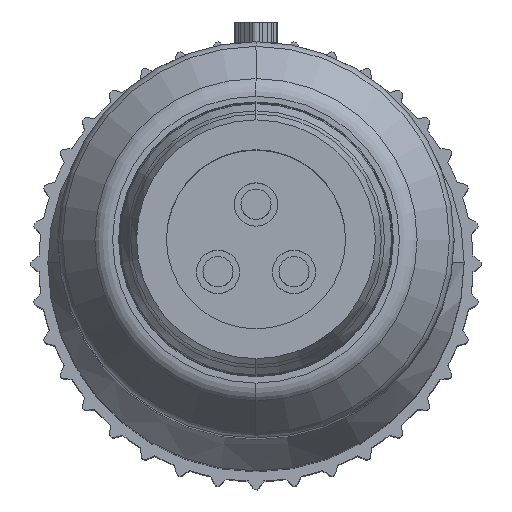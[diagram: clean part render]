
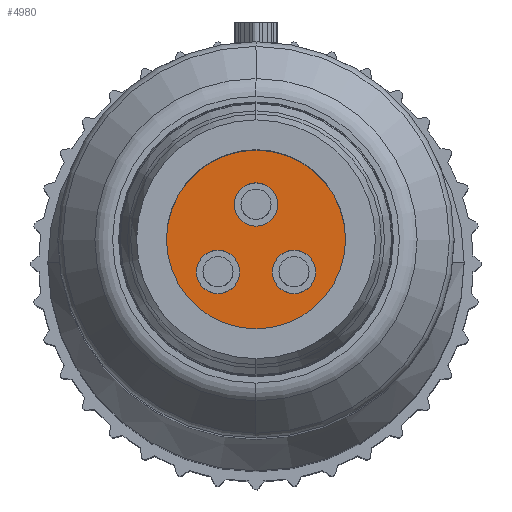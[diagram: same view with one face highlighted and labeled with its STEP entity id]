
A CAD part, top view. The second image highlights one B-rep face of the part: STEP entity #4980.
In plain terms, the highlighted planar face has unit normal (0, 0, 1).
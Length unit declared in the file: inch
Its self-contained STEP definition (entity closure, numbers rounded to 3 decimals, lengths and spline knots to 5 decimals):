
#1101=CARTESIAN_POINT('',(0.,0.,0.));
#1102=DIRECTION('',(0.,0.,1.));
#1103=DIRECTION('',(0.,-1.,0.));
#1104=AXIS2_PLACEMENT_3D('',#1101,#1102,#1103);
#1106=CARTESIAN_POINT('',(0.,0.,0.));
#1107=DIRECTION('',(0.,0.,1.));
#1108=DIRECTION('',(0.,1.,0.));
#1109=AXIS2_PLACEMENT_3D('',#1106,#1107,#1108);
#1111=CARTESIAN_POINT('',(0.,0.03236,0.));
#1112=DIRECTION('',(0.,0.,1.));
#1113=DIRECTION('',(1.,0.,0.));
#1114=AXIS2_PLACEMENT_3D('',#1111,#1112,#1113);
#1116=CARTESIAN_POINT('',(0.,0.03236,0.));
#1117=DIRECTION('',(0.,0.,1.));
#1118=DIRECTION('',(-1.,0.,0.));
#1119=AXIS2_PLACEMENT_3D('',#1116,#1117,#1118);
#1121=CARTESIAN_POINT('',(0.035,-0.02973,0.));
#1122=DIRECTION('',(0.,0.,1.));
#1123=DIRECTION('',(1.,0.,0.));
#1124=AXIS2_PLACEMENT_3D('',#1121,#1122,#1123);
#1126=CARTESIAN_POINT('',(0.035,-0.02973,0.));
#1127=DIRECTION('',(0.,0.,1.));
#1128=DIRECTION('',(-1.,0.,0.));
#1129=AXIS2_PLACEMENT_3D('',#1126,#1127,#1128);
#1131=CARTESIAN_POINT('',(-0.035,-0.02973,0.));
#1132=DIRECTION('',(0.,0.,1.));
#1133=DIRECTION('',(1.,0.,0.));
#1134=AXIS2_PLACEMENT_3D('',#1131,#1132,#1133);
#1136=CARTESIAN_POINT('',(-0.035,-0.02973,0.));
#1137=DIRECTION('',(0.,0.,1.));
#1138=DIRECTION('',(-1.,0.,0.));
#1139=AXIS2_PLACEMENT_3D('',#1136,#1137,#1138);
#3384=CARTESIAN_POINT('',(0.,-0.0825,0.));
#3385=CARTESIAN_POINT('',(0.,0.0825,0.));
#3386=VERTEX_POINT('',#3384);
#3387=VERTEX_POINT('',#3385);
#3440=CARTESIAN_POINT('',(0.02,0.03236,0.));
#3441=CARTESIAN_POINT('',(-0.02,0.03236,0.));
#3442=VERTEX_POINT('',#3440);
#3443=VERTEX_POINT('',#3441);
#3444=CARTESIAN_POINT('',(0.055,-0.02973,0.));
#3445=CARTESIAN_POINT('',(0.015,-0.02973,0.));
#3446=VERTEX_POINT('',#3444);
#3447=VERTEX_POINT('',#3445);
#3448=CARTESIAN_POINT('',(-0.015,-0.02973,0.));
#3449=CARTESIAN_POINT('',(-0.055,-0.02973,0.));
#3450=VERTEX_POINT('',#3448);
#3451=VERTEX_POINT('',#3449);
#4953=CARTESIAN_POINT('',(0.,0.,0.));
#4954=DIRECTION('',(0.,0.,1.));
#4955=DIRECTION('',(0.,-1.,0.));
#4956=AXIS2_PLACEMENT_3D('',#4953,#4954,#4955);
#4957=PLANE('',#4956);
#4958=ORIENTED_EDGE('',*,*,#4933,.F.);
#4959=ORIENTED_EDGE('',*,*,#4947,.F.);
#4960=EDGE_LOOP('',(#4958,#4959));
#4961=FACE_OUTER_BOUND('',#4960,.F.);
#4963=ORIENTED_EDGE('',*,*,#4962,.T.);
#4965=ORIENTED_EDGE('',*,*,#4964,.T.);
#4966=EDGE_LOOP('',(#4963,#4965));
#4967=FACE_BOUND('',#4966,.F.);
#4969=ORIENTED_EDGE('',*,*,#4968,.T.);
#4971=ORIENTED_EDGE('',*,*,#4970,.T.);
#4972=EDGE_LOOP('',(#4969,#4971));
#4973=FACE_BOUND('',#4972,.F.);
#4975=ORIENTED_EDGE('',*,*,#4974,.T.);
#4977=ORIENTED_EDGE('',*,*,#4976,.T.);
#4978=EDGE_LOOP('',(#4975,#4977));
#4979=FACE_BOUND('',#4978,.F.);
#4980=ADVANCED_FACE('',(#4961,#4967,#4973,#4979),#4957,.T.);
#1105=CIRCLE('',#1104,0.0825);
#1110=CIRCLE('',#1109,0.0825);
#1115=CIRCLE('',#1114,0.02);
#1120=CIRCLE('',#1119,0.02);
#1125=CIRCLE('',#1124,0.02);
#1130=CIRCLE('',#1129,0.02);
#1135=CIRCLE('',#1134,0.02);
#1140=CIRCLE('',#1139,0.02);
#4933=EDGE_CURVE('',#3386,#3387,#1105,.T.);
#4947=EDGE_CURVE('',#3387,#3386,#1110,.T.);
#4962=EDGE_CURVE('',#3442,#3443,#1115,.T.);
#4964=EDGE_CURVE('',#3443,#3442,#1120,.T.);
#4968=EDGE_CURVE('',#3446,#3447,#1125,.T.);
#4970=EDGE_CURVE('',#3447,#3446,#1130,.T.);
#4974=EDGE_CURVE('',#3450,#3451,#1135,.T.);
#4976=EDGE_CURVE('',#3451,#3450,#1140,.T.);
